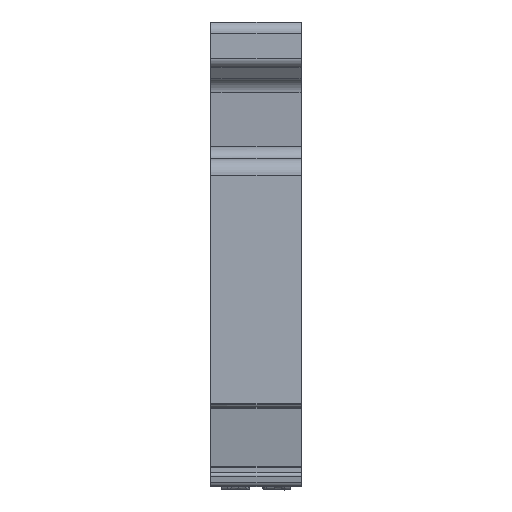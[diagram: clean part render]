
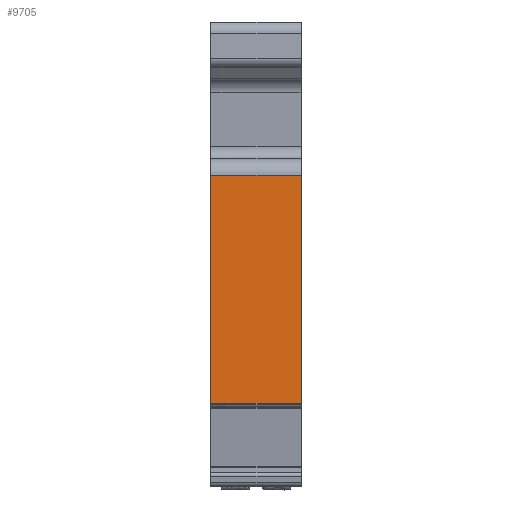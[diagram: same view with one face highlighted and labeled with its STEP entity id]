
A CAD part, left-side view. The second image highlights one B-rep face of the part: STEP entity #9705.
In plain terms, the highlighted planar face has unit normal (-1, 0, 0).
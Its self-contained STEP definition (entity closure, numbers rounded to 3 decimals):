
#617=DIRECTION('',(0.,0.,-1.));
#618=VECTOR('',#617,20.62);
#619=CARTESIAN_POINT('',(-32.4,8.2,-13.85));
#620=LINE('',#619,#618);
#855=CARTESIAN_POINT('',(-32.398,0.05,-34.47));
#857=DIRECTION('',(0.,0.,1.));
#858=VECTOR('',#857,20.623);
#859=CARTESIAN_POINT('',(-32.398,0.05,-34.47));
#860=LINE('',#859,#858);
#1901=DIRECTION('',(0.,1.,0.));
#1902=VECTOR('',#1901,8.15);
#1903=CARTESIAN_POINT('',(-32.4,0.05,-13.847));
#1904=LINE('',#1903,#1902);
#1909=DIRECTION('',(0.,1.,0.));
#1910=VECTOR('',#1909,8.15);
#1911=CARTESIAN_POINT('',(-32.398,0.05,-34.47));
#1912=LINE('',#1911,#1910);
#6231=CARTESIAN_POINT('',(-32.4,8.2,
-13.849));
#6232=VERTEX_POINT('',#6231);
#6233=CARTESIAN_POINT('',(-32.399,8.2,
-34.47));
#6234=VERTEX_POINT('',#6233);
#6497=VERTEX_POINT('',#855);
#6498=CARTESIAN_POINT('',(-32.4,0.05,-13.847));
#6499=VERTEX_POINT('',#6498);
#9693=CARTESIAN_POINT('',(-32.4,4.125,
-24.16));
#9694=DIRECTION('',(1.,0.,0.));
#9695=DIRECTION('',(0.,0.,-1.));
#9696=AXIS2_PLACEMENT_3D('',#9693,#9694,#9695);
#9697=PLANE('',#9696);
#9698=ORIENTED_EDGE('',*,*,#8029,.F.);
#9699=ORIENTED_EDGE('',*,*,#9685,.F.);
#9700=ORIENTED_EDGE('',*,*,#8155,.F.);
#9702=ORIENTED_EDGE('',*,*,#9701,.T.);
#9703=EDGE_LOOP('',(#9698,#9699,#9700,#9702));
#9704=FACE_OUTER_BOUND('',#9703,.F.);
#9705=ADVANCED_FACE('',(#9704),#9697,.F.);
#8029=EDGE_CURVE('',#6232,#6234,#620,.T.);
#8155=EDGE_CURVE('',#6497,#6499,#860,.T.);
#9685=EDGE_CURVE('',#6499,#6232,#1904,.T.);
#9701=EDGE_CURVE('',#6497,#6234,#1912,.T.);
